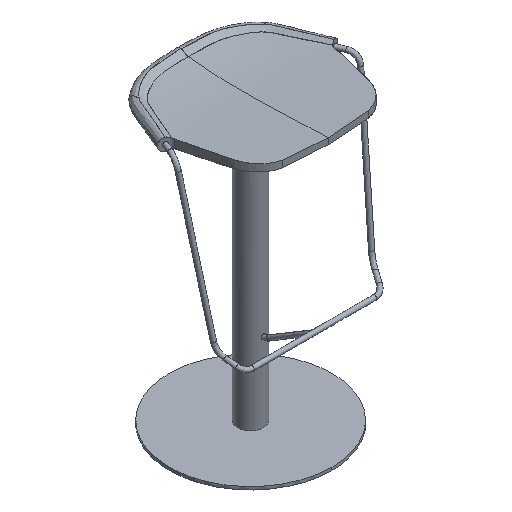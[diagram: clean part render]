
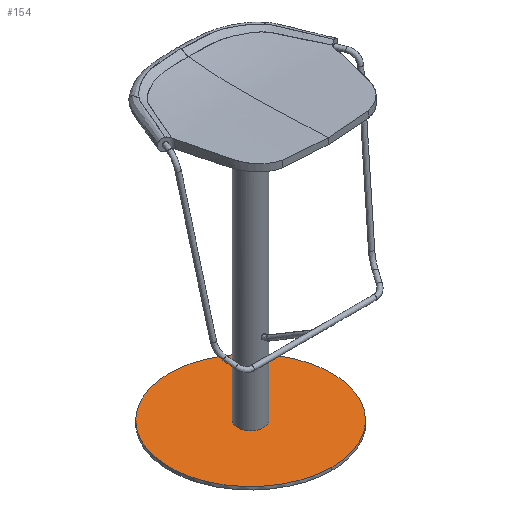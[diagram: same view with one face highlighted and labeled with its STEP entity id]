
A CAD part, isometric view. The second image highlights one B-rep face of the part: STEP entity #154.
In plain terms, the highlighted free-form (B-spline) face has degree [1, 1] with [2, 2] control points.
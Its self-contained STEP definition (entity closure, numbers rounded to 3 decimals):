
#154=ADVANCED_FACE('',(#204),#1985,.T.);
#204=FACE_OUTER_BOUND('',#254,.T.);
#254=EDGE_LOOP('',(#306,#307));
#306=ORIENTED_EDGE('',*,*,#1504,.T.);
#307=ORIENTED_EDGE('',*,*,#1505,.T.);
#525=B_SPLINE_CURVE_WITH_KNOTS('',1,(#2125,#2126),.UNSPECIFIED.,.F.,.F.,
(2,2),(-612.611,0.),.UNSPECIFIED.);
#532=B_SPLINE_CURVE_WITH_KNOTS('',1,(#2139,#2140),.UNSPECIFIED.,.F.,.F.,
(2,2),(-1225.221,-612.611),.UNSPECIFIED.);
#865=PCURVE('',#1985,#1086);
#866=PCURVE('',#1985,#1087);
#867=PCURVE('',#1958,#1088);
#872=PCURVE('',#1959,#1093);
#1086=DEFINITIONAL_REPRESENTATION('',(#1704),#37431);
#1087=DEFINITIONAL_REPRESENTATION('',(#1706),#37431);
#1088=DEFINITIONAL_REPRESENTATION('',(#525),#37431);
#1093=DEFINITIONAL_REPRESENTATION('',(#532),#37431);
#1307=SURFACE_CURVE('',#1703,(#865,#872),.PCURVE_S1.);
#1308=SURFACE_CURVE('',#1705,(#866,#867),.PCURVE_S1.);
#1504=EDGE_CURVE('',#1781,#1782,#1307,.T.);
#1505=EDGE_CURVE('',#1782,#1781,#1308,.T.);
#1703=(
BOUNDED_CURVE()
B_SPLINE_CURVE(2,(#2105,#2106,#2107,#2108,#2109),.UNSPECIFIED.,.F.,.F.)
B_SPLINE_CURVE_WITH_KNOTS((3,2,3),(-1225.221,-918.916,
-612.611),.UNSPECIFIED.)
CURVE()
GEOMETRIC_REPRESENTATION_ITEM()
RATIONAL_B_SPLINE_CURVE((1.,0.707,1.,0.707,1.))
REPRESENTATION_ITEM('')
);
#1704=(
BOUNDED_CURVE()
B_SPLINE_CURVE(2,(#2110,#2111,#2112,#2113,#2114),.UNSPECIFIED.,.F.,.F.)
B_SPLINE_CURVE_WITH_KNOTS((3,2,3),(-1225.221,-918.916,
-612.611),.UNSPECIFIED.)
CURVE()
GEOMETRIC_REPRESENTATION_ITEM()
RATIONAL_B_SPLINE_CURVE((1.,0.707,1.,0.707,1.))
REPRESENTATION_ITEM('')
);
#1705=(
BOUNDED_CURVE()
B_SPLINE_CURVE(2,(#2115,#2116,#2117,#2118,#2119),.UNSPECIFIED.,.F.,.F.)
B_SPLINE_CURVE_WITH_KNOTS((3,2,3),(-612.611,-306.305,0.),
 .UNSPECIFIED.)
CURVE()
GEOMETRIC_REPRESENTATION_ITEM()
RATIONAL_B_SPLINE_CURVE((1.,0.707,1.,0.707,1.))
REPRESENTATION_ITEM('')
);
#1706=(
BOUNDED_CURVE()
B_SPLINE_CURVE(2,(#2120,#2121,#2122,#2123,#2124),.UNSPECIFIED.,.F.,.F.)
B_SPLINE_CURVE_WITH_KNOTS((3,2,3),(-612.611,-306.305,0.),
 .UNSPECIFIED.)
CURVE()
GEOMETRIC_REPRESENTATION_ITEM()
RATIONAL_B_SPLINE_CURVE((1.,0.707,1.,0.707,1.))
REPRESENTATION_ITEM('')
);
#1781=VERTEX_POINT('',#2083);
#1782=VERTEX_POINT('',#2084);
#1958=(
BOUNDED_SURFACE()
B_SPLINE_SURFACE(2,1,((#2045,#2046),(#2047,#2048),(#2049,#2050),(#2051,
#2052),(#2053,#2054),(#2055,#2056),(#2057,#2058),(#2059,#2060),(#2061,#2062)),
 .UNSPECIFIED.,.T.,.F.,.F.)
B_SPLINE_SURFACE_WITH_KNOTS((3,2,2,2,3),(2,2),(0.,306.305,612.611,
918.916,1225.221),(0.,6.002),.UNSPECIFIED.)
GEOMETRIC_REPRESENTATION_ITEM()
RATIONAL_B_SPLINE_SURFACE(((1.,1.),(0.707,0.707),
(1.,1.),(0.707,0.707),(1.,1.),(0.707,
0.707),(1.,1.),(0.707,0.707),(1.,1.)))
REPRESENTATION_ITEM('')
SURFACE()
);
#1959=(
BOUNDED_SURFACE()
B_SPLINE_SURFACE(2,1,((#2063,#2064),(#2065,#2066),(#2067,#2068),(#2069,
#2070),(#2071,#2072),(#2073,#2074),(#2075,#2076),(#2077,#2078),(#2079,#2080)),
 .UNSPECIFIED.,.T.,.F.,.F.)
B_SPLINE_SURFACE_WITH_KNOTS((3,2,2,2,3),(2,2),(0.,306.305,612.611,
918.916,1225.221),(0.,6.002),.UNSPECIFIED.)
GEOMETRIC_REPRESENTATION_ITEM()
RATIONAL_B_SPLINE_SURFACE(((1.,1.),(0.707,0.707),
(1.,1.),(0.707,0.707),(1.,1.),(0.707,
0.707),(1.,1.),(0.707,0.707),(1.,1.)))
REPRESENTATION_ITEM('')
SURFACE()
);
#1985=B_SPLINE_SURFACE_WITH_KNOTS('',1,1,((#2041,#2042),(#2043,#2044)),
 .UNSPECIFIED.,.F.,.F.,.F.,(2,2),(2,2),(-444.4,4.4),(-224.4,224.4),
 .UNSPECIFIED.);
#2041=CARTESIAN_POINT('',(-224.4,224.4,8.));
#2042=CARTESIAN_POINT('',(224.4,224.4,8.));
#2043=CARTESIAN_POINT('',(-224.4,-224.4,8.));
#2044=CARTESIAN_POINT('',(224.4,-224.4,8.));
#2045=CARTESIAN_POINT('',(220.,0.,8.802));
#2046=CARTESIAN_POINT('',(220.,0.,-0.802));
#2047=CARTESIAN_POINT('',(220.,-220.,8.802));
#2048=CARTESIAN_POINT('',(220.,-220.,-0.802));
#2049=CARTESIAN_POINT('',(0.,-220.,8.802));
#2050=CARTESIAN_POINT('',(0.,-220.,-0.802));
#2051=CARTESIAN_POINT('',(-220.,-220.,8.802));
#2052=CARTESIAN_POINT('',(-220.,-220.,-0.802));
#2053=CARTESIAN_POINT('',(-220.,0.,8.802));
#2054=CARTESIAN_POINT('',(-220.,0.,-0.802));
#2055=CARTESIAN_POINT('',(-220.,220.,8.802));
#2056=CARTESIAN_POINT('',(-220.,220.,-0.802));
#2057=CARTESIAN_POINT('',(0.,220.,8.802));
#2058=CARTESIAN_POINT('',(0.,220.,-0.802));
#2059=CARTESIAN_POINT('',(220.,220.,8.802));
#2060=CARTESIAN_POINT('',(220.,220.,-0.802));
#2061=CARTESIAN_POINT('',(220.,0.,8.802));
#2062=CARTESIAN_POINT('',(220.,0.,-0.802));
#2063=CARTESIAN_POINT('',(-220.,0.,8.802));
#2064=CARTESIAN_POINT('',(-220.,0.,-0.802));
#2065=CARTESIAN_POINT('',(-220.,220.,8.802));
#2066=CARTESIAN_POINT('',(-220.,220.,-0.802));
#2067=CARTESIAN_POINT('',(0.,220.,8.802));
#2068=CARTESIAN_POINT('',(0.,220.,-0.802));
#2069=CARTESIAN_POINT('',(220.,220.,8.802));
#2070=CARTESIAN_POINT('',(220.,220.,-0.802));
#2071=CARTESIAN_POINT('',(220.,0.,8.802));
#2072=CARTESIAN_POINT('',(220.,0.,-0.802));
#2073=CARTESIAN_POINT('',(220.,-220.,8.802));
#2074=CARTESIAN_POINT('',(220.,-220.,-0.802));
#2075=CARTESIAN_POINT('',(0.,-220.,8.802));
#2076=CARTESIAN_POINT('',(0.,-220.,-0.802));
#2077=CARTESIAN_POINT('',(-220.,-220.,8.802));
#2078=CARTESIAN_POINT('',(-220.,-220.,-0.802));
#2079=CARTESIAN_POINT('',(-220.,0.,8.802));
#2080=CARTESIAN_POINT('',(-220.,0.,-0.802));
#2083=CARTESIAN_POINT('',(0.,-220.,8.));
#2084=CARTESIAN_POINT('',(0.,220.,8.));
#2105=CARTESIAN_POINT('',(0.,-220.,8.));
#2106=CARTESIAN_POINT('',(220.,-220.,8.));
#2107=CARTESIAN_POINT('',(220.,0.,8.));
#2108=CARTESIAN_POINT('',(220.,220.,8.));
#2109=CARTESIAN_POINT('',(0.,220.,8.));
#2110=CARTESIAN_POINT('',(0.,0.));
#2111=CARTESIAN_POINT('',(0.,220.));
#2112=CARTESIAN_POINT('',(-220.,220.));
#2113=CARTESIAN_POINT('',(-440.,220.));
#2114=CARTESIAN_POINT('',(-440.,0.));
#2115=CARTESIAN_POINT('',(0.,220.,8.));
#2116=CARTESIAN_POINT('',(-220.,220.,8.));
#2117=CARTESIAN_POINT('',(-220.,0.,8.));
#2118=CARTESIAN_POINT('',(-220.,-220.,8.));
#2119=CARTESIAN_POINT('',(0.,-220.,8.));
#2120=CARTESIAN_POINT('',(-440.,0.));
#2121=CARTESIAN_POINT('',(-440.,-220.));
#2122=CARTESIAN_POINT('',(-220.,-220.));
#2123=CARTESIAN_POINT('',(0.,-220.));
#2124=CARTESIAN_POINT('',(0.,0.));
#2125=CARTESIAN_POINT('',(918.916,0.501));
#2126=CARTESIAN_POINT('',(306.305,0.501));
#2139=CARTESIAN_POINT('',(918.916,0.501));
#2140=CARTESIAN_POINT('',(306.305,0.501));
#37431=(
GEOMETRIC_REPRESENTATION_CONTEXT(2)
PARAMETRIC_REPRESENTATION_CONTEXT()
REPRESENTATION_CONTEXT('pspace','')
);
